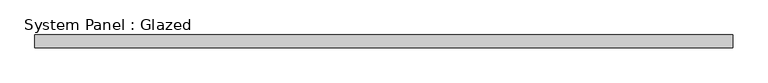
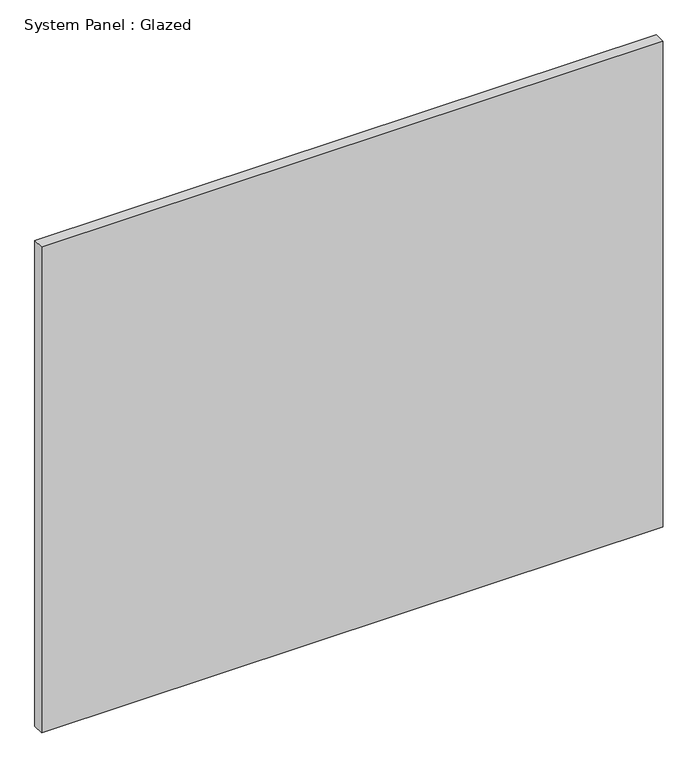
"""IFC4 building model written with IfcOpenShell, lengths in millimetres: plate geometry, System Panel : Glazed."""

from ifc_helpers import new_model, si_unit, origin, origin_with_axes, place, context, project, spatial, polyline, outline, extrude, source, transform, mapped, element, save


def system_panel_glazed_b5729ea7(model_context):
    return source(origin(), model_context, "Body", "SweptSolid", [
        extrude(outline(polyline([(688.5886914, 19.05), (-688.5886914, 19.05), (-688.5886914, 44.45), (688.5886914, 44.45), (688.5886914, 19.05)])), origin_with_axes(), (0.0, 0.0, 1.0), 1137.4164677),
    ])


if __name__ == "__main__":
    model = new_model("IFC4")
    model_context = context("Model", 3, world=origin())
    ifc_project = project(units=[si_unit("LENGTHUNIT", "METRE", prefix="MILLI")], contexts=[model_context])
    site = spatial("IfcSite", under=ifc_project)
    building = spatial("IfcBuilding", under=site)
    placement = place(None, origin())
    system_panel_glazed_shape = system_panel_glazed_b5729ea7(model_context)
    element("IfcPlate", 1, ObjectType="System Panel : Glazed", at=placement, inside=building, context=model_context, shape_type="MappedRepresentation", body=[
        mapped(system_panel_glazed_shape, transform((0.0, 0.0, 0.0), x_axis=(1.0, 0.0, 0.0), y_axis=(0.0, 1.0, 0.0), z_axis=(0.0, 0.0, 1.0))),
    ])
    save(model, "model.ifc")
